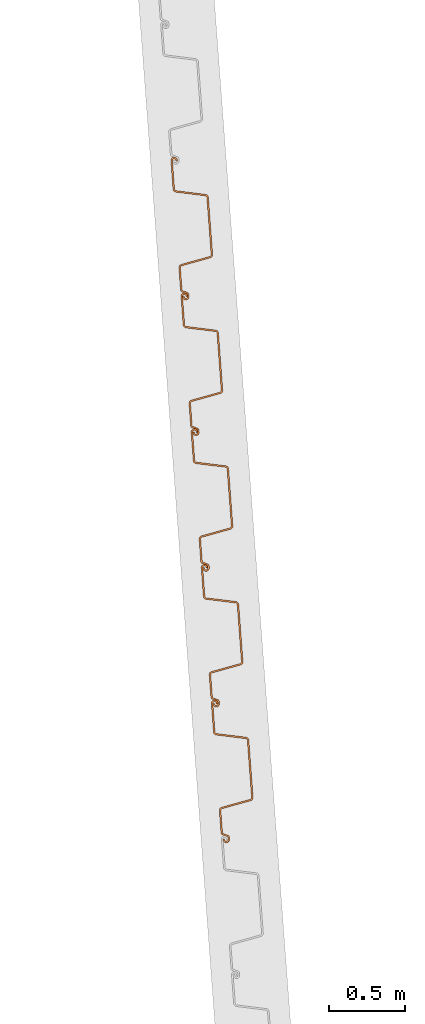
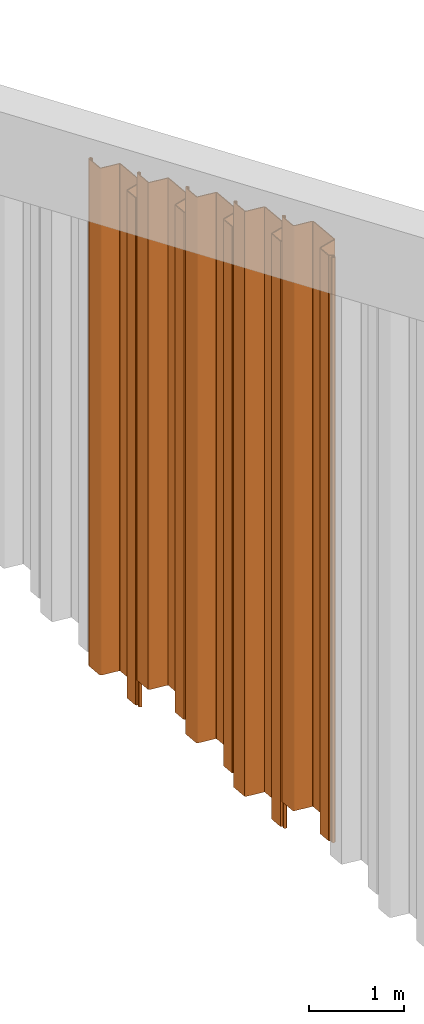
# One storey, part 5 of 15: 5 proxies.
"""IFC2X3 building model written with IfcOpenShell, lengths in millimetres."""

from ifc_helpers import new_model, entity, si_unit, converted_unit, derived_unit, direction, frame, frame_2d, origin, place, context, subcontext, project, spatial, polyline, circle_curve, parameter, trimmed, segment, composite_curve, outline, extrude, source, transform, mapped, material, type_object, type_shapes, element, save


model = new_model("IFC2X3")

# Units and contexts
model_context = context("Model", 3, precision=0.01, world=origin(), true_north=direction((6.12303176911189e-17, 1.0)))
body_context = subcontext(model_context, "Body", "Model", "MODEL_VIEW")
ifc_project = project(units=[si_unit("LENGTHUNIT", "METRE", prefix="MILLI"), si_unit("AREAUNIT", "SQUARE_METRE"), si_unit("VOLUMEUNIT", "CUBIC_METRE"), converted_unit("PLANEANGLEUNIT", "DEGREE", entity("IfcRatioMeasure", 0.0174532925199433), si_unit("PLANEANGLEUNIT", "RADIAN"), dimensions=[0, 0, 0, 0, 0, 0, 0]), si_unit("MASSUNIT", "GRAM", prefix="KILO"), derived_unit("MASSDENSITYUNIT", [(si_unit("MASSUNIT", "GRAM", prefix="KILO"), 1), (si_unit("LENGTHUNIT", "METRE"), -3)]), derived_unit("MOMENTOFINERTIAUNIT", [(si_unit("LENGTHUNIT", "METRE"), 4)]), si_unit("TIMEUNIT", "SECOND"), si_unit("FREQUENCYUNIT", "HERTZ"), si_unit("THERMODYNAMICTEMPERATUREUNIT", "DEGREE_CELSIUS"), derived_unit("THERMALTRANSMITTANCEUNIT", [(si_unit("MASSUNIT", "GRAM", prefix="KILO"), 1), (si_unit("THERMODYNAMICTEMPERATUREUNIT", "KELVIN"), -1), (si_unit("TIMEUNIT", "SECOND"), -3)]), derived_unit("VOLUMETRICFLOWRATEUNIT", [(si_unit("LENGTHUNIT", "METRE"), 3), (si_unit("TIMEUNIT", "SECOND"), -1)]), si_unit("ELECTRICCURRENTUNIT", "AMPERE"), si_unit("ELECTRICVOLTAGEUNIT", "VOLT"), si_unit("POWERUNIT", "WATT"), si_unit("FORCEUNIT", "NEWTON", prefix="KILO"), si_unit("ILLUMINANCEUNIT", "LUX"), si_unit("LUMINOUSFLUXUNIT", "LUMEN"), si_unit("LUMINOUSINTENSITYUNIT", "CANDELA"), derived_unit("USERDEFINED", [(si_unit("MASSUNIT", "GRAM", prefix="KILO"), -1), (si_unit("LENGTHUNIT", "METRE"), -2), (si_unit("TIMEUNIT", "SECOND"), 3), (si_unit("LUMINOUSFLUXUNIT", "LUMEN"), 1)]), derived_unit("LINEARVELOCITYUNIT", [(si_unit("LENGTHUNIT", "METRE"), 1), (si_unit("TIMEUNIT", "SECOND"), -1)]), si_unit("PRESSUREUNIT", "PASCAL"), derived_unit("USERDEFINED", [(si_unit("LENGTHUNIT", "METRE"), -2), (si_unit("MASSUNIT", "GRAM", prefix="KILO"), 1), (si_unit("TIMEUNIT", "SECOND"), -2)]), derived_unit("LINEARFORCEUNIT", [(si_unit("MASSUNIT", "GRAM", prefix="KILO"), 1), (si_unit("LENGTHUNIT", "METRE"), 1), (si_unit("TIMEUNIT", "SECOND"), -2), (si_unit("LENGTHUNIT", "METRE"), -1)]), derived_unit("PLANARFORCEUNIT", [(si_unit("MASSUNIT", "GRAM", prefix="KILO"), 1), (si_unit("LENGTHUNIT", "METRE"), 1), (si_unit("TIMEUNIT", "SECOND"), -2), (si_unit("LENGTHUNIT", "METRE"), -2)])], contexts=[model_context])

# Site, building, storey
site_placement = place(None, origin())
site = spatial("IfcSite", under=ifc_project, at=site_placement, Name="Default", CompositionType="ELEMENT")
building_placement = place(site_placement, origin())
building = spatial("IfcBuilding", under=site, at=building_placement, CompositionType="ELEMENT")
storey_placement = place(building_placement, frame((0.0, 0.0, 9500.0)))
storey = spatial("IfcBuildingStorey", under=building, at=storey_placement, Name="AP+9.500", CompositionType="ELEMENT", Elevation=9500.0)

# Proxies
ifc_material = material(Name="<Unnamed>")
building_element_proxy_type_1 = type_object("IfcBuildingElementProxyType", Name="鋼矢板10H型:鋼矢板10H型", PredefinedType="NOTDEFINED", material=ifc_material)
shared_shape_1 = source(origin(), body_context, "Body", "SweptSolid", [
    extrude(outline(composite_curve([segment(trimmed(circle_curve(frame_2d((85.3662976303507, 306.644432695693), x_axis=(0.422618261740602, 0.906307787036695)), 13.885714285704), [parameter(24.9999999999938)], [parameter(90.0000000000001)], True, "PARAMETER"), True, "CONTINUOUS"), segment(polyline([(72.7815666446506, 312.512789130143), (9.8129512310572, 177.476157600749)]), True, "CONTINUOUS"), segment(trimmed(circle_curve(frame_2d((29.3891994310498, 168.347603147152), x_axis=(0.422618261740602, 0.906307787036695)), 21.6), [parameter(90.0000000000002)], [parameter(168.69006752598)], True, "PARAMETER"), True, "CONTINUOUS"), segment(polyline([(16.598697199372, 150.941769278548), (175.329723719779, 34.2998683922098)]), True, "CONTINUOUS"), segment(trimmed(circle_curve(frame_2d((168.93447260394, 25.596951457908), x_axis=(0.422618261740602, 0.906307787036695)), 10.7999999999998), [parameter(270.0)], [parameter(348.690067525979)], True, "PARAMETER"), False, "CONTINUOUS"), segment(polyline([(178.722596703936, 21.0326742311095), (18.2974003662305, -323.000269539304)]), True, "CONTINUOUS"), segment(trimmed(circle_curve(frame_2d((8.50927626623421, -318.435992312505), x_axis=(0.422618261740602, 0.906307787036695)), 10.8), [parameter(191.30993247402)], [parameter(269.999999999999)], True, "PARAMETER"), False, "CONTINUOUS"), segment(polyline([(5.95324328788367, -328.929166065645), (-185.429973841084, -282.310113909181)]), True, "CONTINUOUS"), segment(trimmed(circle_curve(frame_2d((-190.542039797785, -303.296461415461), x_axis=(0.422618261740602, 0.906307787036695)), 21.6000000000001), [parameter(11.3099324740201)], [parameter(90.0000000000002)], True, "PARAMETER"), True, "CONTINUOUS"), segment(polyline([(-210.118287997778, -294.167906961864), (-290.330886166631, -466.184378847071)]), True, "CONTINUOUS"), segment(trimmed(circle_curve(frame_2d((-270.754637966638, -475.312933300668), x_axis=(0.422618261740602, 0.906307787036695)), 21.6), [parameter(90.0000000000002)], [parameter(269.999999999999)], True, "PARAMETER"), True, "CONTINUOUS"), segment(polyline([(-251.178389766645, -484.441487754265), (-249.065298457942, -479.909948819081)]), True, "CONTINUOUS"), segment(polyline([(-249.065298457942, -479.909948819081), (-258.853422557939, -475.345671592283)]), True, "CONTINUOUS"), segment(polyline([(-258.853422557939, -475.345671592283), (-260.966513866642, -479.877210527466)]), True, "CONTINUOUS"), segment(trimmed(circle_curve(frame_2d((-270.754637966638, -475.312933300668), x_axis=(0.422618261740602, 0.906307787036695)), 10.8), [parameter(90.0000000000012)], [parameter(270.0)], True, "PARAMETER"), False, "CONTINUOUS"), segment(polyline([(-280.542762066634, -470.748656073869), (-200.330163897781, -298.732184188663)]), True, "CONTINUOUS"), segment(trimmed(circle_curve(frame_2d((-190.542039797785, -303.296461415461), x_axis=(0.422618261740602, 0.906307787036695)), 10.8), [parameter(11.3099324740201)], [parameter(89.9999999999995)], True, "PARAMETER"), False, "CONTINUOUS"), segment(polyline([(-187.986006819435, -292.803287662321), (3.39721030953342, -339.422339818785)]), True, "CONTINUOUS"), segment(trimmed(circle_curve(frame_2d((8.50927626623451, -318.435992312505), x_axis=(0.422618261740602, 0.906307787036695)), 21.6), [parameter(191.30993247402)], [parameter(270.0)], True, "PARAMETER"), True, "CONTINUOUS"), segment(polyline([(28.0855244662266, -327.564546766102), (188.510720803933, 16.4683970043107)]), True, "CONTINUOUS"), segment(trimmed(circle_curve(frame_2d((168.93447260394, 25.5969514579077), x_axis=(0.422618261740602, 0.906307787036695)), 21.6), [parameter(270.0)], [parameter(348.69006752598)], True, "PARAMETER"), True, "CONTINUOUS"), segment(polyline([(181.724974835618, 43.0027853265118), (22.9939483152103, 159.644686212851)]), True, "CONTINUOUS"), segment(trimmed(circle_curve(frame_2d((29.3891994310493, 168.347603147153), x_axis=(0.422618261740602, 0.906307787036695)), 10.7999999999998), [parameter(89.9999999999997)], [parameter(168.690067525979)], True, "PARAMETER"), False, "CONTINUOUS"), segment(polyline([(19.6010753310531, 172.911880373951), (82.5696907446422, 307.948511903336)]), True, "CONTINUOUS"), segment(trimmed(circle_curve(frame_2d((85.3662976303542, 306.64443269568), x_axis=(0.422618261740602, 0.906307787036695)), 3.08571428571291), [parameter(25.0000000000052)], [parameter(90.0000000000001)], True, "PARAMETER"), False, "CONTINUOUS"), segment(polyline([(85.3662976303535, 309.730146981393), (122.220231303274, 309.730146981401)]), True, "CONTINUOUS"), segment(trimmed(circle_curve(frame_2d((122.220231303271, 323.615861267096), x_axis=(0.422618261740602, 0.906307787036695)), 13.8857142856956), [parameter(205.000000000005)], [parameter(270.0)], True, "PARAMETER"), True, "CONTINUOUS"), segment(polyline([(134.804962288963, 317.747504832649), (141.079261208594, 331.202782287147)]), True, "CONTINUOUS"), segment(trimmed(circle_curve(frame_2d((121.503013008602, 340.331336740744), x_axis=(0.422618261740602, 0.906307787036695)), 21.6), [parameter(270.0)], [parameter(90.0000000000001)], True, "PARAMETER"), True, "CONTINUOUS"), segment(polyline([(101.926764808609, 349.459891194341), (99.8136734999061, 344.928352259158)]), True, "CONTINUOUS"), segment(polyline([(99.8136734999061, 344.928352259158), (109.601797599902, 340.364075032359)]), True, "CONTINUOUS"), segment(polyline([(109.601797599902, 340.364075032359), (111.714888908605, 344.895613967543)]), True, "CONTINUOUS"), segment(trimmed(circle_curve(frame_2d((121.503013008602, 340.331336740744), x_axis=(0.422618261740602, 0.906307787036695)), 10.8), [parameter(270.0)], [parameter(89.9999999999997)], True, "PARAMETER"), False, "CONTINUOUS"), segment(polyline([(131.291137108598, 335.767059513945), (125.01683818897, 322.311782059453)]), True, "CONTINUOUS"), segment(trimmed(circle_curve(frame_2d((122.220231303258, 323.615861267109), x_axis=(0.422618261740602, 0.906307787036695)), 3.08571428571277), [parameter(204.999999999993)], [parameter(270.0)], True, "PARAMETER"), False, "CONTINUOUS"), segment(polyline([(122.220231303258, 320.530146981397), (85.3662976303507, 320.530146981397)]), True, "CONTINUOUS")], self_intersect=False)), frame((95.205667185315, -48.8888888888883, -6500.0), z_axis=(0.0, 0.0, -1.0), x_axis=(0.4226182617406, 0.906307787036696, 0.0)), (0.0, 0.0, -1.0), 6500.0),
])
type_shapes(building_element_proxy_type_1, [shared_shape_1])
for number, where, z_axis, x_axis in (
    (1, (-91065.82349308, 15706.3084908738, 2490.17384934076), (0.0, 0.0, 1.0), (0.0743258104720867, -0.997234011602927, 0.0)),
    (2, (-90998.9302636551, 14808.7978804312, 2826.31787385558), (0.0, 0.0, 1.0), (0.0743258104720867, -0.997234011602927, 0.0)),
):
    element("IfcBuildingElementProxy", number, at=place(storey_placement, frame(where, z_axis=z_axis, x_axis=x_axis)), inside=storey, type_object=building_element_proxy_type_1, material=ifc_material, Name="鋼矢板10H型:鋼矢板10H型", ObjectType="鋼矢板10H型:鋼矢板10H型", context=body_context, shape_type="MappedRepresentation", body=[
        mapped(shared_shape_1, transform((0.0, 0.0, 0.0), scale=1.0)),
    ])
building_element_proxy_type_2 = type_object("IfcBuildingElementProxyType", Name="鋼矢板10H型:鋼矢板10H型", PredefinedType="NOTDEFINED", material=ifc_material)
shared_shape_2 = source(origin(), body_context, "Body", "SweptSolid", [
    extrude(outline(composite_curve([segment(trimmed(circle_curve(frame_2d((85.3662976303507, 306.644432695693), x_axis=(0.422618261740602, 0.906307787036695)), 13.885714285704), [parameter(24.9999999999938)], [parameter(90.0000000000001)], True, "PARAMETER"), True, "CONTINUOUS"), segment(polyline([(72.7815666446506, 312.512789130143), (9.8129512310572, 177.476157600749)]), True, "CONTINUOUS"), segment(trimmed(circle_curve(frame_2d((29.3891994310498, 168.347603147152), x_axis=(0.422618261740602, 0.906307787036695)), 21.6), [parameter(90.0000000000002)], [parameter(168.69006752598)], True, "PARAMETER"), True, "CONTINUOUS"), segment(polyline([(16.598697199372, 150.941769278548), (175.329723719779, 34.2998683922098)]), True, "CONTINUOUS"), segment(trimmed(circle_curve(frame_2d((168.93447260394, 25.596951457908), x_axis=(0.422618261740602, 0.906307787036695)), 10.7999999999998), [parameter(270.0)], [parameter(348.690067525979)], True, "PARAMETER"), False, "CONTINUOUS"), segment(polyline([(178.722596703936, 21.0326742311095), (18.2974003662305, -323.000269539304)]), True, "CONTINUOUS"), segment(trimmed(circle_curve(frame_2d((8.50927626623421, -318.435992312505), x_axis=(0.422618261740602, 0.906307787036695)), 10.8), [parameter(191.30993247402)], [parameter(269.999999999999)], True, "PARAMETER"), False, "CONTINUOUS"), segment(polyline([(5.95324328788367, -328.929166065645), (-185.429973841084, -282.310113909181)]), True, "CONTINUOUS"), segment(trimmed(circle_curve(frame_2d((-190.542039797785, -303.296461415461), x_axis=(0.422618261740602, 0.906307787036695)), 21.6000000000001), [parameter(11.3099324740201)], [parameter(90.0000000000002)], True, "PARAMETER"), True, "CONTINUOUS"), segment(polyline([(-210.118287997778, -294.167906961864), (-290.330886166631, -466.184378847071)]), True, "CONTINUOUS"), segment(trimmed(circle_curve(frame_2d((-270.754637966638, -475.312933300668), x_axis=(0.422618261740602, 0.906307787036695)), 21.6), [parameter(90.0000000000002)], [parameter(269.999999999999)], True, "PARAMETER"), True, "CONTINUOUS"), segment(polyline([(-251.178389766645, -484.441487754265), (-249.065298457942, -479.909948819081)]), True, "CONTINUOUS"), segment(polyline([(-249.065298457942, -479.909948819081), (-258.853422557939, -475.345671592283)]), True, "CONTINUOUS"), segment(polyline([(-258.853422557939, -475.345671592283), (-260.966513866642, -479.877210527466)]), True, "CONTINUOUS"), segment(trimmed(circle_curve(frame_2d((-270.754637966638, -475.312933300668), x_axis=(0.422618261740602, 0.906307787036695)), 10.8), [parameter(90.0000000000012)], [parameter(270.0)], True, "PARAMETER"), False, "CONTINUOUS"), segment(polyline([(-280.542762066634, -470.748656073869), (-200.330163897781, -298.732184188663)]), True, "CONTINUOUS"), segment(trimmed(circle_curve(frame_2d((-190.542039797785, -303.296461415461), x_axis=(0.422618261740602, 0.906307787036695)), 10.8), [parameter(11.3099324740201)], [parameter(89.9999999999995)], True, "PARAMETER"), False, "CONTINUOUS"), segment(polyline([(-187.986006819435, -292.803287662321), (3.39721030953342, -339.422339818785)]), True, "CONTINUOUS"), segment(trimmed(circle_curve(frame_2d((8.50927626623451, -318.435992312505), x_axis=(0.422618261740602, 0.906307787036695)), 21.6), [parameter(191.30993247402)], [parameter(270.0)], True, "PARAMETER"), True, "CONTINUOUS"), segment(polyline([(28.0855244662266, -327.564546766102), (188.510720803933, 16.4683970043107)]), True, "CONTINUOUS"), segment(trimmed(circle_curve(frame_2d((168.93447260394, 25.5969514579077), x_axis=(0.422618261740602, 0.906307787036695)), 21.6), [parameter(270.0)], [parameter(348.69006752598)], True, "PARAMETER"), True, "CONTINUOUS"), segment(polyline([(181.724974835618, 43.0027853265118), (22.9939483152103, 159.644686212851)]), True, "CONTINUOUS"), segment(trimmed(circle_curve(frame_2d((29.3891994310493, 168.347603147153), x_axis=(0.422618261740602, 0.906307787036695)), 10.7999999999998), [parameter(89.9999999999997)], [parameter(168.690067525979)], True, "PARAMETER"), False, "CONTINUOUS"), segment(polyline([(19.6010753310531, 172.911880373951), (82.5696907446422, 307.948511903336)]), True, "CONTINUOUS"), segment(trimmed(circle_curve(frame_2d((85.3662976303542, 306.64443269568), x_axis=(0.422618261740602, 0.906307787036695)), 3.08571428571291), [parameter(25.0000000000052)], [parameter(90.0000000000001)], True, "PARAMETER"), False, "CONTINUOUS"), segment(polyline([(85.3662976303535, 309.730146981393), (122.220231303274, 309.730146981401)]), True, "CONTINUOUS"), segment(trimmed(circle_curve(frame_2d((122.220231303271, 323.615861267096), x_axis=(0.422618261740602, 0.906307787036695)), 13.8857142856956), [parameter(205.000000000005)], [parameter(270.0)], True, "PARAMETER"), True, "CONTINUOUS"), segment(polyline([(134.804962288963, 317.747504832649), (141.079261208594, 331.202782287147)]), True, "CONTINUOUS"), segment(trimmed(circle_curve(frame_2d((121.503013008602, 340.331336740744), x_axis=(0.422618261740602, 0.906307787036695)), 21.6), [parameter(270.0)], [parameter(90.0000000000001)], True, "PARAMETER"), True, "CONTINUOUS"), segment(polyline([(101.926764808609, 349.459891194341), (99.8136734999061, 344.928352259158)]), True, "CONTINUOUS"), segment(polyline([(99.8136734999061, 344.928352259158), (109.601797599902, 340.364075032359)]), True, "CONTINUOUS"), segment(polyline([(109.601797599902, 340.364075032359), (111.714888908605, 344.895613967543)]), True, "CONTINUOUS"), segment(trimmed(circle_curve(frame_2d((121.503013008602, 340.331336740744), x_axis=(0.422618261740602, 0.906307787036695)), 10.8), [parameter(270.0)], [parameter(89.9999999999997)], True, "PARAMETER"), False, "CONTINUOUS"), segment(polyline([(131.291137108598, 335.767059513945), (125.01683818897, 322.311782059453)]), True, "CONTINUOUS"), segment(trimmed(circle_curve(frame_2d((122.220231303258, 323.615861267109), x_axis=(0.422618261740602, 0.906307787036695)), 3.08571428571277), [parameter(204.999999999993)], [parameter(270.0)], True, "PARAMETER"), False, "CONTINUOUS"), segment(polyline([(122.220231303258, 320.530146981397), (85.3662976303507, 320.530146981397)]), True, "CONTINUOUS")], self_intersect=False)), frame((95.205667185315, -48.8888888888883, -7000.0), z_axis=(0.0, 0.0, -1.0), x_axis=(0.4226182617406, 0.906307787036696, 0.0)), (0.0, 0.0, -1.0), 7000.0),
])
type_shapes(building_element_proxy_type_2, [shared_shape_2])
proxy_placement = place(storey_placement, frame((-90932.0370342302, 13911.2872699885, 3162.46189837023), z_axis=(0.0, 0.0, 1.0), x_axis=(0.0743258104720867, -0.997234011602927, 0.0)))
element("IfcBuildingElementProxy", 3, at=proxy_placement, inside=storey, type_object=building_element_proxy_type_2, material=ifc_material, Name="鋼矢板10H型:鋼矢板10H型", ObjectType="鋼矢板10H型:鋼矢板10H型", context=body_context, shape_type="MappedRepresentation", body=[
    mapped(shared_shape_2, transform((0.0, 0.0, 0.0), scale=1.0)),
])
building_element_proxy_type_3 = type_object("IfcBuildingElementProxyType", Name="鋼矢板10H型:鋼矢板10H型", PredefinedType="NOTDEFINED", material=ifc_material)
shared_shape_3 = source(origin(), body_context, "Body", "SweptSolid", [
    extrude(outline(composite_curve([segment(trimmed(circle_curve(frame_2d((85.3662976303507, 306.644432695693), x_axis=(0.422618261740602, 0.906307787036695)), 13.885714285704), [parameter(24.9999999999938)], [parameter(90.0000000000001)], True, "PARAMETER"), True, "CONTINUOUS"), segment(polyline([(72.7815666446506, 312.512789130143), (9.8129512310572, 177.476157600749)]), True, "CONTINUOUS"), segment(trimmed(circle_curve(frame_2d((29.3891994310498, 168.347603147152), x_axis=(0.422618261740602, 0.906307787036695)), 21.6), [parameter(90.0000000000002)], [parameter(168.69006752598)], True, "PARAMETER"), True, "CONTINUOUS"), segment(polyline([(16.598697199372, 150.941769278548), (175.329723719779, 34.2998683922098)]), True, "CONTINUOUS"), segment(trimmed(circle_curve(frame_2d((168.93447260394, 25.596951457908), x_axis=(0.422618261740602, 0.906307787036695)), 10.7999999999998), [parameter(270.0)], [parameter(348.690067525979)], True, "PARAMETER"), False, "CONTINUOUS"), segment(polyline([(178.722596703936, 21.0326742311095), (18.2974003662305, -323.000269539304)]), True, "CONTINUOUS"), segment(trimmed(circle_curve(frame_2d((8.50927626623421, -318.435992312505), x_axis=(0.422618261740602, 0.906307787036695)), 10.8), [parameter(191.30993247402)], [parameter(269.999999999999)], True, "PARAMETER"), False, "CONTINUOUS"), segment(polyline([(5.95324328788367, -328.929166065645), (-185.429973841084, -282.310113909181)]), True, "CONTINUOUS"), segment(trimmed(circle_curve(frame_2d((-190.542039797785, -303.296461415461), x_axis=(0.422618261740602, 0.906307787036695)), 21.6000000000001), [parameter(11.3099324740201)], [parameter(90.0000000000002)], True, "PARAMETER"), True, "CONTINUOUS"), segment(polyline([(-210.118287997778, -294.167906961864), (-290.330886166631, -466.184378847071)]), True, "CONTINUOUS"), segment(trimmed(circle_curve(frame_2d((-270.754637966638, -475.312933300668), x_axis=(0.422618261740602, 0.906307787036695)), 21.6), [parameter(90.0000000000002)], [parameter(269.999999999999)], True, "PARAMETER"), True, "CONTINUOUS"), segment(polyline([(-251.178389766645, -484.441487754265), (-249.065298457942, -479.909948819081)]), True, "CONTINUOUS"), segment(polyline([(-249.065298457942, -479.909948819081), (-258.853422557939, -475.345671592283)]), True, "CONTINUOUS"), segment(polyline([(-258.853422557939, -475.345671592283), (-260.966513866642, -479.877210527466)]), True, "CONTINUOUS"), segment(trimmed(circle_curve(frame_2d((-270.754637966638, -475.312933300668), x_axis=(0.422618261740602, 0.906307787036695)), 10.8), [parameter(90.0000000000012)], [parameter(270.0)], True, "PARAMETER"), False, "CONTINUOUS"), segment(polyline([(-280.542762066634, -470.748656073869), (-200.330163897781, -298.732184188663)]), True, "CONTINUOUS"), segment(trimmed(circle_curve(frame_2d((-190.542039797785, -303.296461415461), x_axis=(0.422618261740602, 0.906307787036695)), 10.8), [parameter(11.3099324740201)], [parameter(89.9999999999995)], True, "PARAMETER"), False, "CONTINUOUS"), segment(polyline([(-187.986006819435, -292.803287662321), (3.39721030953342, -339.422339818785)]), True, "CONTINUOUS"), segment(trimmed(circle_curve(frame_2d((8.50927626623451, -318.435992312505), x_axis=(0.422618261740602, 0.906307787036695)), 21.6), [parameter(191.30993247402)], [parameter(270.0)], True, "PARAMETER"), True, "CONTINUOUS"), segment(polyline([(28.0855244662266, -327.564546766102), (188.510720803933, 16.4683970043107)]), True, "CONTINUOUS"), segment(trimmed(circle_curve(frame_2d((168.93447260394, 25.5969514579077), x_axis=(0.422618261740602, 0.906307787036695)), 21.6), [parameter(270.0)], [parameter(348.69006752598)], True, "PARAMETER"), True, "CONTINUOUS"), segment(polyline([(181.724974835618, 43.0027853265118), (22.9939483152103, 159.644686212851)]), True, "CONTINUOUS"), segment(trimmed(circle_curve(frame_2d((29.3891994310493, 168.347603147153), x_axis=(0.422618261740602, 0.906307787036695)), 10.7999999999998), [parameter(89.9999999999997)], [parameter(168.690067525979)], True, "PARAMETER"), False, "CONTINUOUS"), segment(polyline([(19.6010753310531, 172.911880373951), (82.5696907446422, 307.948511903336)]), True, "CONTINUOUS"), segment(trimmed(circle_curve(frame_2d((85.3662976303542, 306.64443269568), x_axis=(0.422618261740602, 0.906307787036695)), 3.08571428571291), [parameter(25.0000000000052)], [parameter(90.0000000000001)], True, "PARAMETER"), False, "CONTINUOUS"), segment(polyline([(85.3662976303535, 309.730146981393), (122.220231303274, 309.730146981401)]), True, "CONTINUOUS"), segment(trimmed(circle_curve(frame_2d((122.220231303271, 323.615861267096), x_axis=(0.422618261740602, 0.906307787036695)), 13.8857142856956), [parameter(205.000000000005)], [parameter(270.0)], True, "PARAMETER"), True, "CONTINUOUS"), segment(polyline([(134.804962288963, 317.747504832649), (141.079261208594, 331.202782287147)]), True, "CONTINUOUS"), segment(trimmed(circle_curve(frame_2d((121.503013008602, 340.331336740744), x_axis=(0.422618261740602, 0.906307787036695)), 21.6), [parameter(270.0)], [parameter(90.0000000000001)], True, "PARAMETER"), True, "CONTINUOUS"), segment(polyline([(101.926764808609, 349.459891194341), (99.8136734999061, 344.928352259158)]), True, "CONTINUOUS"), segment(polyline([(99.8136734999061, 344.928352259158), (109.601797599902, 340.364075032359)]), True, "CONTINUOUS"), segment(polyline([(109.601797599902, 340.364075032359), (111.714888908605, 344.895613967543)]), True, "CONTINUOUS"), segment(trimmed(circle_curve(frame_2d((121.503013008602, 340.331336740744), x_axis=(0.422618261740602, 0.906307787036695)), 10.8), [parameter(270.0)], [parameter(89.9999999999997)], True, "PARAMETER"), False, "CONTINUOUS"), segment(polyline([(131.291137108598, 335.767059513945), (125.01683818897, 322.311782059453)]), True, "CONTINUOUS"), segment(trimmed(circle_curve(frame_2d((122.220231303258, 323.615861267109), x_axis=(0.422618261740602, 0.906307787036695)), 3.08571428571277), [parameter(204.999999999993)], [parameter(270.0)], True, "PARAMETER"), False, "CONTINUOUS"), segment(polyline([(122.220231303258, 320.530146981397), (85.3662976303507, 320.530146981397)]), True, "CONTINUOUS")], self_intersect=False)), frame((95.205667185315, -48.8888888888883, -7500.0), z_axis=(0.0, 0.0, -1.0), x_axis=(0.4226182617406, 0.906307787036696, 0.0)), (0.0, 0.0, -1.0), 7500.0),
])
type_shapes(building_element_proxy_type_3, [shared_shape_3])
for number, where, z_axis, x_axis in (
    (4, (-90865.1438048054, 13013.7766595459, 3498.60592288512), (0.0, 0.0, 1.0), (0.0743258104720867, -0.997234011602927, 0.0)),
    (5, (-90798.2505753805, 12116.2660491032, 3834.74994739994), (0.0, 0.0, 1.0), (0.0743258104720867, -0.997234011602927, 0.0)),
):
    element("IfcBuildingElementProxy", number, at=place(storey_placement, frame(where, z_axis=z_axis, x_axis=x_axis)), inside=storey, type_object=building_element_proxy_type_3, material=ifc_material, Name="鋼矢板10H型:鋼矢板10H型", ObjectType="鋼矢板10H型:鋼矢板10H型", context=body_context, shape_type="MappedRepresentation", body=[
        mapped(shared_shape_3, transform((0.0, 0.0, 0.0), scale=1.0)),
    ])

save(model, "model.ifc")
